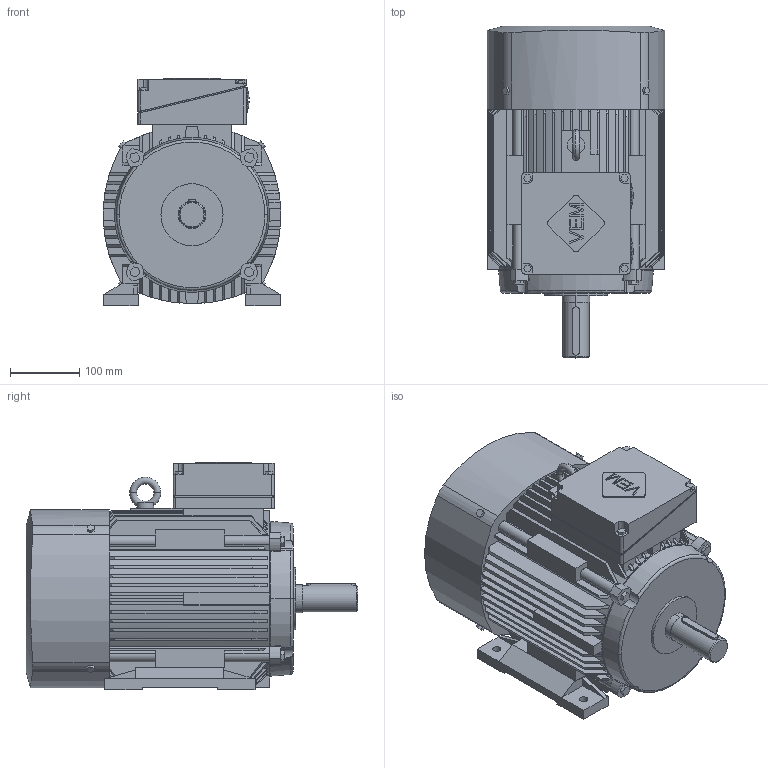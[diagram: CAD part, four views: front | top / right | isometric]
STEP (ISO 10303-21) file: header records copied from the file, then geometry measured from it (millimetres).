
FILE_DESCRIPTION(('no description'),'unknown implementation level');
FILE_NAME('te4e968d33e124ef0aeff90f1540a42ba.stp',' ',('VEM motors GmbH'),('CADClick - KiM GmbH - www.kimweb.de'),'unknown preprocess','ACIS','unknown authorization');
FILE_SCHEMA(('automotive_design'));
Length unit declared in the file: millimetre
Products named in the file (5): 1; 2; 3; 4; 5
Bounding box: 257.5 x 480.5 x 330 mm (x, y, z)
Volume: 20676836.1 mm3; surface area: 934481.3 mm2
Topology: 5 solids, 5 shells, 682 faces, 1918 edges, 1266 vertices
Faces by surface type: plane 414, cylinder 154, cone 96, torus 14, bspline 4
Entity records: 46340 total; most frequent: CARTESIAN_POINT 7665, STYLED_ITEM 3871, PRESENTATION_STYLE_ASSIGNMENT 3871, COLOUR_RGB 3871, ORIENTED_EDGE 3836, DIRECTION 3362, EDGE_CURVE 1918, CURVE_STYLE 1918
